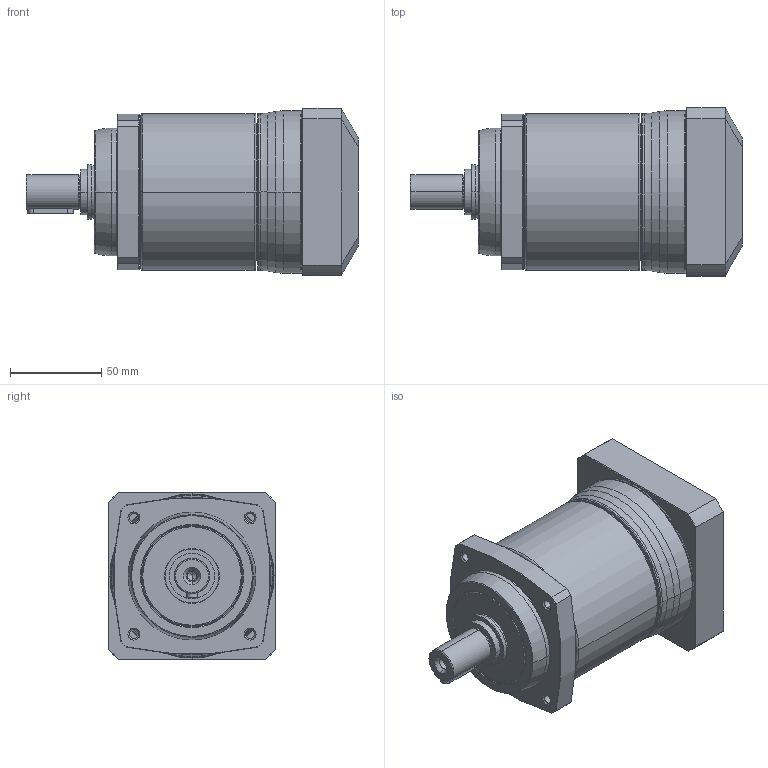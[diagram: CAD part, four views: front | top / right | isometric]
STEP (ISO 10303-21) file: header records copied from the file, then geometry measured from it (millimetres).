
FILE_DESCRIPTION((''),'2;1');
FILE_NAME('PS2-C_2ST_19-P0411400101_ASM','2016-05-23T',('d01943'),(''),'PRO/ENGINEER BY PARAMETRIC TECHNOLOGY CORPORATION, 2008410','PRO/ENGINEER BY PARAMETRIC TECHNOLOGY CORPORATION, 2008410','');
FILE_SCHEMA(('CONFIG_CONTROL_DESIGN'));
Length unit declared in the file: millimetre
Products named in the file (9): P1328310001; P0251300001; P1324300101; P0350301401; P0941301001; P0503400008; P0411400101; P1702500001; PS2-C_2ST_19-P0411400101_ASM
Assembly tree (8 placements, depth 2):
  PS2-C_2ST_19-P0411400101_ASM
    P1328310001
    P0251300001
    P1324300101
    P0350301401
    P0941301001
    P0503400008
    P0411400101
    P1702500001
Bounding box: 182 x 92 x 92 mm (x, y, z)
Volume: 616078.3 mm3; surface area: 149260.3 mm2
Topology: 8 solids, 8 shells, 485 faces, 1058 edges, 614 vertices
Faces by surface type: cone 152, cylinder 143, torus 90, plane 80, bspline 20
Entity records: 18156 total; most frequent: CARTESIAN_POINT 7232, DIRECTION 2490, ORIENTED_EDGE 2076, AXIS2_PLACEMENT_3D 1075, EDGE_CURVE 1038, VERTEX_POINT 614, CIRCLE 593, EDGE_LOOP 554
